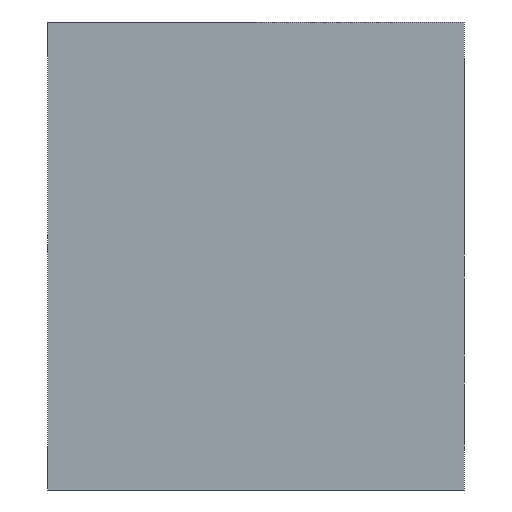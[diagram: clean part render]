
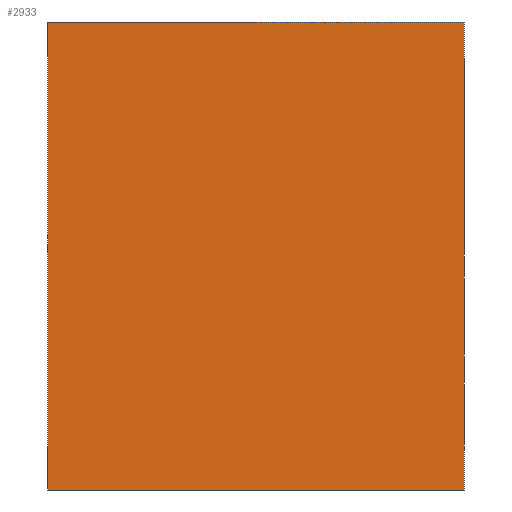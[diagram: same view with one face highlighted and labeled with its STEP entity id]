
A CAD part, left-side view. The second image highlights one B-rep face of the part: STEP entity #2933.
In plain terms, the highlighted planar face has unit normal (-1, 0, 0).
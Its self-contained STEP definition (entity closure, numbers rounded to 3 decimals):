
#23=DIRECTION('',(0.,-1.,0.));
#24=VECTOR('',#23,40.);
#25=CARTESIAN_POINT('',(-80.,40.,0.));
#26=LINE('',#25,#24);
#84=DIRECTION('',(0.,0.,1.));
#85=VECTOR('',#84,45.);
#86=CARTESIAN_POINT('',(-80.,40.,0.));
#87=LINE('',#86,#85);
#316=DIRECTION('',(0.,0.,1.));
#317=VECTOR('',#316,45.);
#318=CARTESIAN_POINT('',(-80.,0.,0.));
#319=LINE('',#318,#317);
#467=DIRECTION('',(0.,-1.,0.));
#468=VECTOR('',#467,40.);
#469=CARTESIAN_POINT('',(-80.,40.,45.));
#470=LINE('',#469,#468);
#2607=CARTESIAN_POINT('',(-80.,40.,0.));
#2608=CARTESIAN_POINT('',(-80.,0.,0.));
#2609=VERTEX_POINT('',#2607);
#2610=VERTEX_POINT('',#2608);
#2615=CARTESIAN_POINT('',(-80.,40.,45.));
#2616=CARTESIAN_POINT('',(-80.,0.,45.));
#2617=VERTEX_POINT('',#2615);
#2618=VERTEX_POINT('',#2616);
#2919=CARTESIAN_POINT('',(-80.,40.,0.));
#2920=DIRECTION('',(-1.,0.,0.));
#2921=DIRECTION('',(0.,-1.,0.));
#2922=AXIS2_PLACEMENT_3D('',#2919,#2920,#2921);
#2923=PLANE('',#2922);
#2924=ORIENTED_EDGE('',*,*,#2884,.F.);
#2926=ORIENTED_EDGE('',*,*,#2925,.T.);
#2928=ORIENTED_EDGE('',*,*,#2927,.T.);
#2930=ORIENTED_EDGE('',*,*,#2929,.F.);
#2931=EDGE_LOOP('',(#2924,#2926,#2928,#2930));
#2932=FACE_OUTER_BOUND('',#2931,.F.);
#2884=EDGE_CURVE('',#2609,#2610,#26,.T.);
#2925=EDGE_CURVE('',#2609,#2617,#87,.T.);
#2927=EDGE_CURVE('',#2617,#2618,#470,.T.);
#2929=EDGE_CURVE('',#2610,#2618,#319,.T.);
#2933=ADVANCED_FACE('',(#2932),#2923,.T.);
